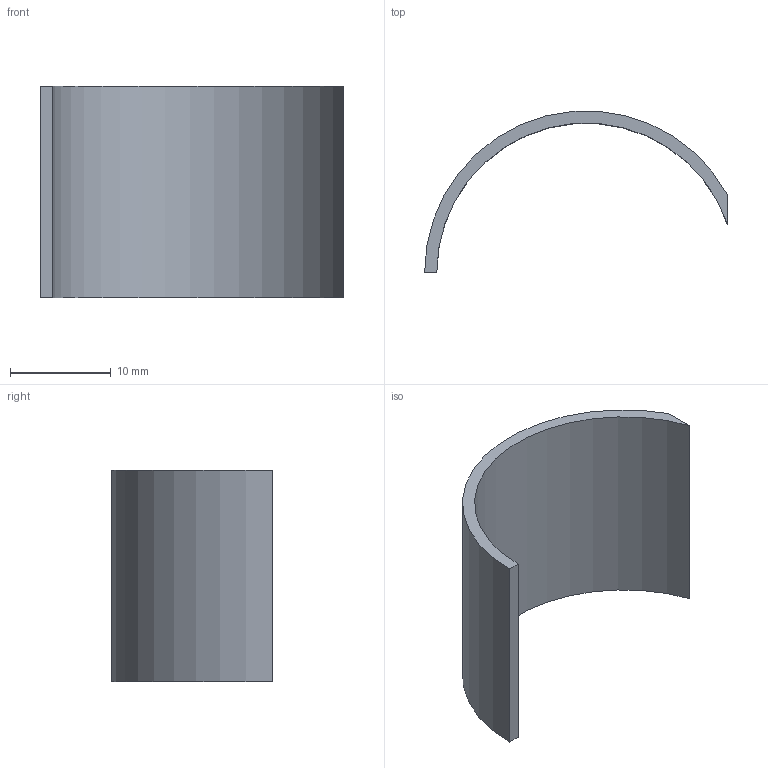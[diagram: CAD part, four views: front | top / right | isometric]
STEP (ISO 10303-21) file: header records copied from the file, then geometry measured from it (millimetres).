
FILE_DESCRIPTION(('Open CASCADE Model'),'2;1');
FILE_NAME('Open CASCADE Shape Model','2026-11-18T22:15:56',('Author'),( 'Open CASCADE'),'Open CASCADE STEP processor 7.8','Open CASCADE 7.8' ,'Unknown');
FILE_SCHEMA(('AUTOMOTIVE_DESIGN { 1 0 10303 214 1 1 1 1 }'));
Length unit declared in the file: millimetre
Products named in the file (1): Open CASCADE STEP translator 7.8 3
Bounding box: 30 x 15.95 x 21 mm (x, y, z)
Volume: 1053.5 mm3; surface area: 1946.9 mm2
Topology: 1 solids, 1 shells, 6 faces, 12 edges, 8 vertices
Faces by surface type: plane 4, cylinder 2
Entity records: 316 total; most frequent: CARTESIAN_POINT 79, DIRECTION 36, ORIENTED_EDGE 24, PCURVE 24, DEFINITIONAL_REPRESENTATION 24, B_SPLINE_CURVE_WITH_KNOTS 16, EDGE_CURVE 12, SURFACE_CURVE 12
